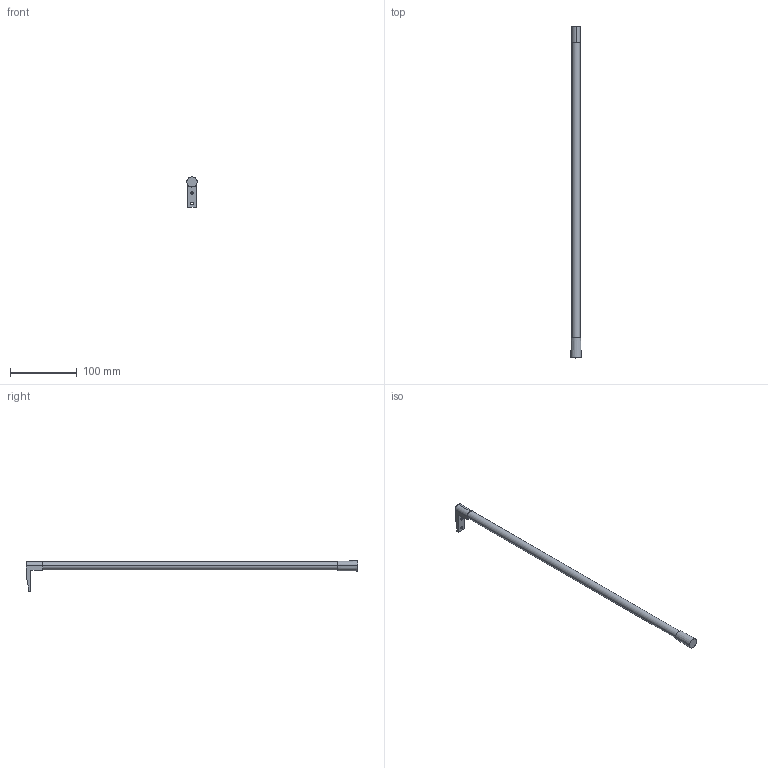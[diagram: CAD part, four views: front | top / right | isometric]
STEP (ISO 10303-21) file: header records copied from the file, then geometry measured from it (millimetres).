
FILE_DESCRIPTION (( 'STEP AP214' ), '1' );
FILE_NAME ('IMOS_Anschraubreling_Set_NL500.step', '2010-10-07T16:15:22', ( 'Grass' ), ( '' ), 'SwSTEP 2.0', 'SolidWorks 2010', '' );
FILE_SCHEMA (( 'AUTOMOTIVE_DESIGN' ));
Length unit declared in the file: millimetre
Products named in the file (1): IMOS_Anschraubreling_Set_NL500
Bounding box: 15.5 x 496.9 x 45.75 mm (x, y, z)
Volume: 61059 mm3; surface area: 20921.5 mm2
Topology: 1 solids, 1 shells, 24 faces, 57 edges, 38 vertices
Faces by surface type: plane 12, cylinder 10, cone 2
Entity records: 745 total; most frequent: DIRECTION 127, CARTESIAN_POINT 126, ORIENTED_EDGE 114, EDGE_CURVE 57, AXIS2_PLACEMENT_3D 47, VERTEX_POINT 38, LINE 33, VECTOR 33
